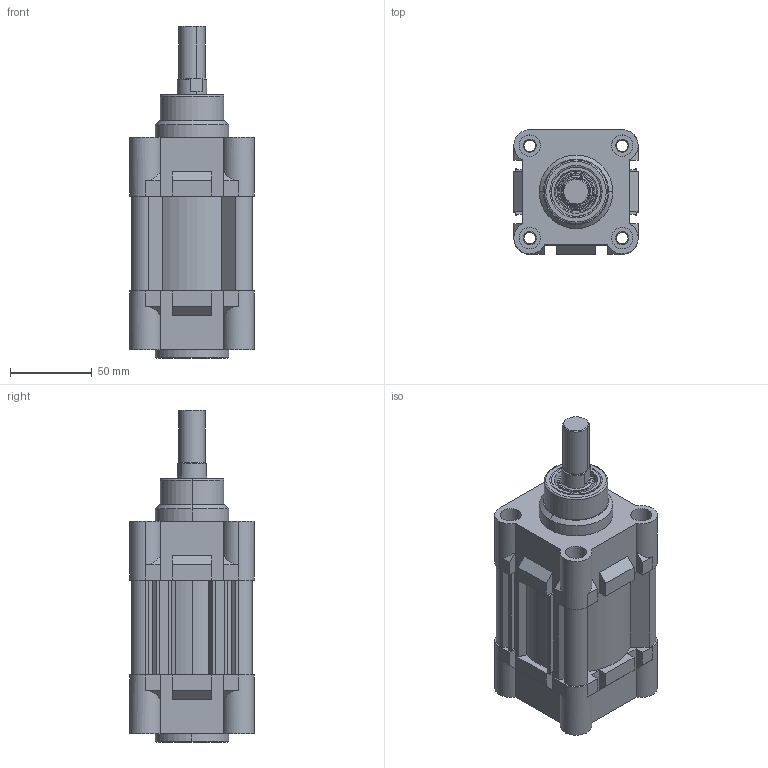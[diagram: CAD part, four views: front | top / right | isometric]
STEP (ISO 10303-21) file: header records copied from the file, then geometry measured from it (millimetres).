
FILE_DESCRIPTION (( 'STEP AP214' ), '1' );
FILE_NAME ('RIC_63_25_WEB.STEP', '2020-07-18T16:32:15', ( '' ), ( '' ), 'SwSTEP 2.0', 'SolidWorks 2018', '' );
FILE_SCHEMA (( 'AUTOMOTIVE_DESIGN' ));
Length unit declared in the file: millimetre
Products named in the file (7): 63_BORU_WEB; ric63onkapak; ric63yastikkecesi; 20_K_MIL_WEB; ric63arkakapak; RIC_63_25_WEB; ric63bogazkecesi
Assembly tree (7 placements, depth 2):
  RIC_63_25_WEB
    63_BORU_WEB
    ric63onkapak
    ric63arkakapak
    ric63bogazkecesi
    ric63yastikkecesi  x2
    20_K_MIL_WEB
Bounding box: 76 x 76 x 203 mm (x, y, z)
Volume: 467535.2 mm3; surface area: 130737.7 mm2
Topology: 7 solids, 7 shells, 709 faces, 1751 edges, 1102 vertices
Faces by surface type: plane 280, cylinder 220, torus 134, cone 56, bspline 19
Entity records: 21075 total; most frequent: CARTESIAN_POINT 4906, DIRECTION 3090, ORIENTED_EDGE 2910, EDGE_CURVE 1455, AXIS2_PLACEMENT_3D 1135, VERTEX_POINT 925, LINE 820, VECTOR 820
